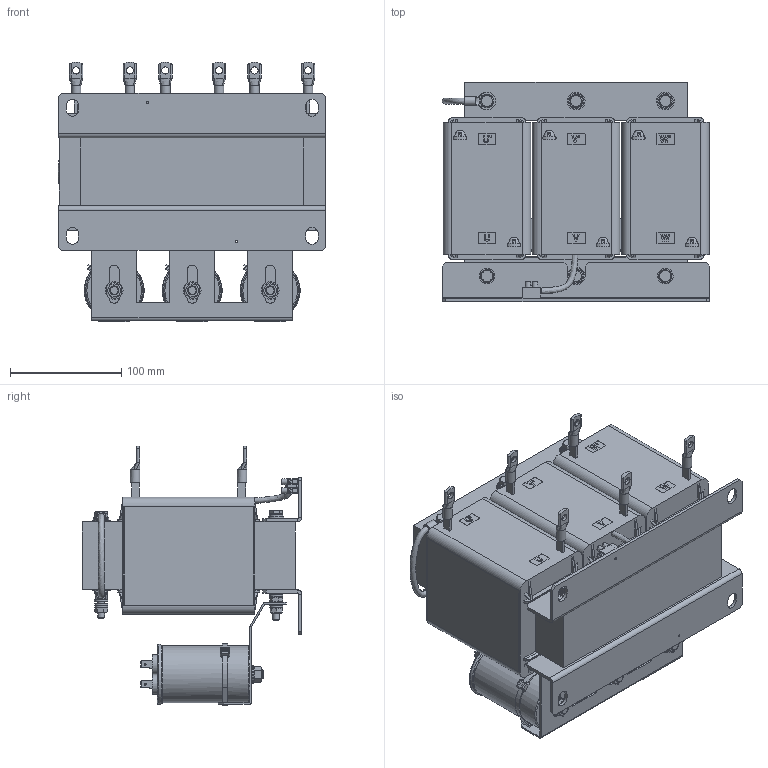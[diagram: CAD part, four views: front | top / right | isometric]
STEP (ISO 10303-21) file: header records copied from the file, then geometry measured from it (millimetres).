
FILE_DESCRIPTION(/* description */ (''),/* implementation_level */ '2;1');
FILE_NAME(/* name */ 'C:\Users\Erika.Jenzer\OneDrive - Schaffner EMV AG\BELLA\STEP FILES BELLA\FN\FN5420-60-92-E0XXT.stp',/* time_stamp */ '2021-07-07T15:51:32+02:00',/* author */ ('erika.jenzer'),/* organization */ (''),/* preprocessor_version */ 'ST-DEVELOPER v18.1',/* originating_system */ 'Autodesk Inventor 2020',/* authorisation */ '');
FILE_SCHEMA (('AUTOMOTIVE_DESIGN { 1 0 10303 214 3 1 1 }'));
Products named in the file (1): FN5420-60-92-E0XXT
Bounding box: 240.29 x 197 x 233.15 mm (x, y, z)
Volume: 4449708 mm3; surface area: 415643.2 mm2
Topology: 2 solids, 12 shells, 2290 faces, 6161 edges, 4074 vertices
Faces by surface type: plane 1616, cylinder 427, cone 136, bspline 67, torus 31, sphere 13
Full cylindrical faces by diameter (mm): 0.01 x2, 1.6 x12, 2.013 x2, 2.5 x1, 2.8 x5, 3.4 x4, 5.19 x2, 5.459 x4, 5.8 x2, 6 x21, 6.1 x7, 6.4 x22, 6.5 x2, 6.6 x3, 7.6 x5, 7.92 x6, 8 x6, 8.2 x2, 8.4 x3, 8.5 x10, 8.7 x6, 12 x14, 13 x1, 14 x5, 14.64 x6, 16 x7, 17.82 x6, 51 x3, 54 x3
Entity records: 75776 total; most frequent: CARTESIAN_POINT 16788, ORIENTED_EDGE 12326, DIRECTION 11294, EDGE_CURVE 6163, VERTEX_POINT 4074, LINE 3960, VECTOR 3960, AXIS2_PLACEMENT_3D 3667
